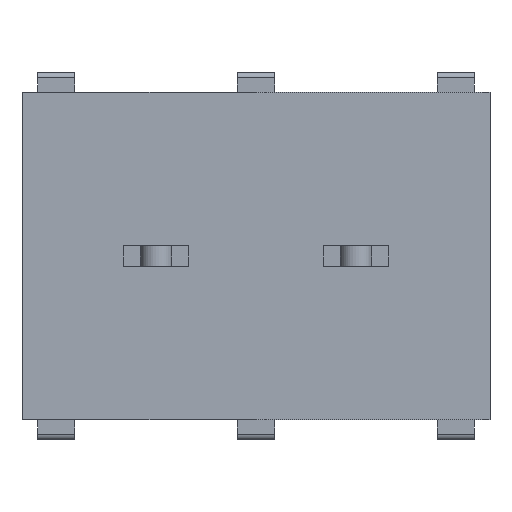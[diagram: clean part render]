
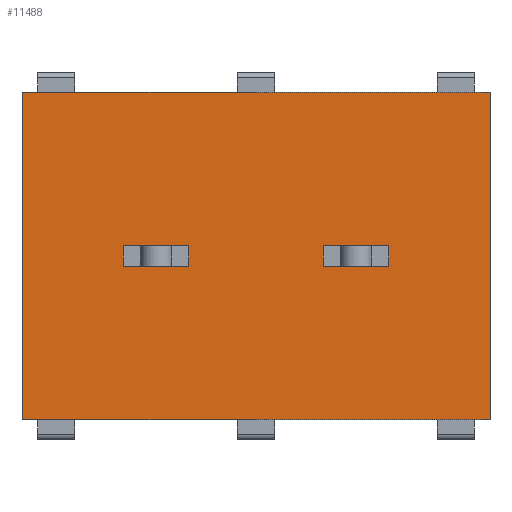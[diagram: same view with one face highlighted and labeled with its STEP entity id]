
A CAD part, front view. The second image highlights one B-rep face of the part: STEP entity #11488.
In plain terms, the highlighted planar face has unit normal (0, -1, 0).
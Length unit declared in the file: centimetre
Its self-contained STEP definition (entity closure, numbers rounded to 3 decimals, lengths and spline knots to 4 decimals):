
#752=VERTEX_POINT('',#14507);
#753=VERTEX_POINT('',#14508);
#756=VERTEX_POINT('',#14516);
#782=VERTEX_POINT('',#14586);
#1351=VERTEX_POINT('',#16823);
#1352=VERTEX_POINT('',#16825);
#1353=VERTEX_POINT('',#16840);
#1354=VERTEX_POINT('',#16841);
#1361=VERTEX_POINT('',#16856);
#1380=VERTEX_POINT('',#16912);
#1718=VERTEX_POINT('',#18423);
#1719=VERTEX_POINT('',#18425);
#1873=VECTOR('',#12234,1.);
#1877=VECTOR('',#12239,1.);
#1905=VECTOR('',#12292,1.);
#1907=VECTOR('',#12295,1.);
#2560=VECTOR('',#13353,1.);
#2568=VECTOR('',#13367,1.);
#2574=VECTOR('',#13376,1.);
#2597=VECTOR('',#13420,1.);
#2607=VECTOR('',#13438,1.);
#3005=VECTOR('',#13972,1.);
#3035=VECTOR('',#14026,1.);
#3036=VECTOR('',#14028,1.);
#3177=LINE('',#14506,#1873);
#3181=LINE('',#14515,#1877);
#3209=LINE('',#14585,#1905);
#3211=LINE('',#14589,#1907);
#3864=LINE('',#16824,#2560);
#3872=LINE('',#16839,#2568);
#3878=LINE('',#16855,#2574);
#3901=LINE('',#16911,#2597);
#3911=LINE('',#16933,#2607);
#4309=LINE('',#18424,#3005);
#4339=LINE('',#18497,#3035);
#4340=LINE('',#18499,#3036);
#4553=EDGE_CURVE('',#752,#753,#3177,.T.);
#4557=EDGE_CURVE('',#756,#752,#3181,.T.);
#4592=EDGE_CURVE('',#782,#756,#3209,.T.);
#4595=EDGE_CURVE('',#753,#782,#3211,.T.);
#5447=EDGE_CURVE('',#1352,#1351,#3864,.T.);
#5455=EDGE_CURVE('',#1353,#1354,#3872,.T.);
#5463=EDGE_CURVE('',#1354,#1361,#3878,.T.);
#5491=EDGE_CURVE('',#1361,#1380,#3901,.T.);
#5503=EDGE_CURVE('',#1380,#1353,#3911,.T.);
#6005=EDGE_CURVE('',#1719,#1718,#4309,.T.);
#6042=EDGE_CURVE('',#1719,#1351,#4339,.T.);
#6043=EDGE_CURVE('',#1718,#1352,#4340,.T.);
#9380=ORIENTED_EDGE('',*,*,#4557,.T.);
#9381=ORIENTED_EDGE('',*,*,#4553,.T.);
#9382=ORIENTED_EDGE('',*,*,#4595,.T.);
#9383=ORIENTED_EDGE('',*,*,#4592,.T.);
#9384=ORIENTED_EDGE('',*,*,#5491,.F.);
#9385=ORIENTED_EDGE('',*,*,#5463,.F.);
#9386=ORIENTED_EDGE('',*,*,#5455,.F.);
#9387=ORIENTED_EDGE('',*,*,#5503,.F.);
#9388=ORIENTED_EDGE('',*,*,#6042,.F.);
#9389=ORIENTED_EDGE('',*,*,#6005,.T.);
#9390=ORIENTED_EDGE('',*,*,#6043,.T.);
#9391=ORIENTED_EDGE('',*,*,#5447,.T.);
#10162=EDGE_LOOP('',(#9380,#9381,#9382,#9383));
#10163=EDGE_LOOP('',(#9384,#9385,#9386,#9387));
#10164=EDGE_LOOP('',(#9388,#9389,#9390,#9391));
#10852=FACE_BOUND('',#10162,.T.);
#10853=FACE_BOUND('',#10163,.T.);
#10854=FACE_BOUND('',#10164,.T.);
#11488=ADVANCED_FACE('',(#10852,#10853,#10854),#11943,.T.);
#11943=PLANE('',#19185);
#12234=DIRECTION('',(0.,0.,-1.));
#12239=DIRECTION('',(1.,0.,0.));
#12292=DIRECTION('',(0.,0.,1.));
#12295=DIRECTION('',(-1.,0.,0.));
#13353=DIRECTION('',(0.,0.,1.));
#13367=DIRECTION('',(1.,0.,0.));
#13376=DIRECTION('',(0.,0.,1.));
#13420=DIRECTION('',(-1.,0.,0.));
#13438=DIRECTION('',(0.,0.,-1.));
#13972=DIRECTION('',(0.,0.,-1.));
#14026=DIRECTION('',(1.,0.,0.));
#14027=DIRECTION('',(0.,-1.,0.));
#14028=DIRECTION('',(1.,0.,0.));
#14506=CARTESIAN_POINT('',(-1.089,0.,0.));
#14507=CARTESIAN_POINT('',(-1.089,0.,0.04));
#14508=CARTESIAN_POINT('',(-1.089,0.,-0.04));
#14515=CARTESIAN_POINT('',(-1.369,0.,0.04));
#14516=CARTESIAN_POINT('',(-1.339,0.,0.04));
#14585=CARTESIAN_POINT('',(-1.339,0.,0.));
#14586=CARTESIAN_POINT('',(-1.339,0.,-0.04));
#14589=CARTESIAN_POINT('',(-1.369,0.,-0.04));
#16823=CARTESIAN_POINT('',(0.06,0.,0.625));
#16824=CARTESIAN_POINT('',(0.06,0.,-0.625));
#16825=CARTESIAN_POINT('',(0.06,0.,-0.625));
#16839=CARTESIAN_POINT('',(-0.297,0.,-0.04));
#16840=CARTESIAN_POINT('',(-0.577,0.,-0.04));
#16841=CARTESIAN_POINT('',(-0.327,0.,-0.04));
#16855=CARTESIAN_POINT('',(-0.327,0.,0.));
#16856=CARTESIAN_POINT('',(-0.327,0.,0.04));
#16911=CARTESIAN_POINT('',(-0.297,0.,0.04));
#16912=CARTESIAN_POINT('',(-0.577,0.,0.04));
#16933=CARTESIAN_POINT('',(-0.577,0.,0.));
#18423=CARTESIAN_POINT('',(-1.726,0.,-0.625));
#18424=CARTESIAN_POINT('',(-1.726,0.,0.625));
#18425=CARTESIAN_POINT('',(-1.726,0.,0.625));
#18497=CARTESIAN_POINT('',(0.,0.,0.625));
#18498=CARTESIAN_POINT('',(-1.524,0.,0.));
#18499=CARTESIAN_POINT('',(0.,0.,-0.625));
#19185=AXIS2_PLACEMENT_3D('',#18498,#14027,$);
